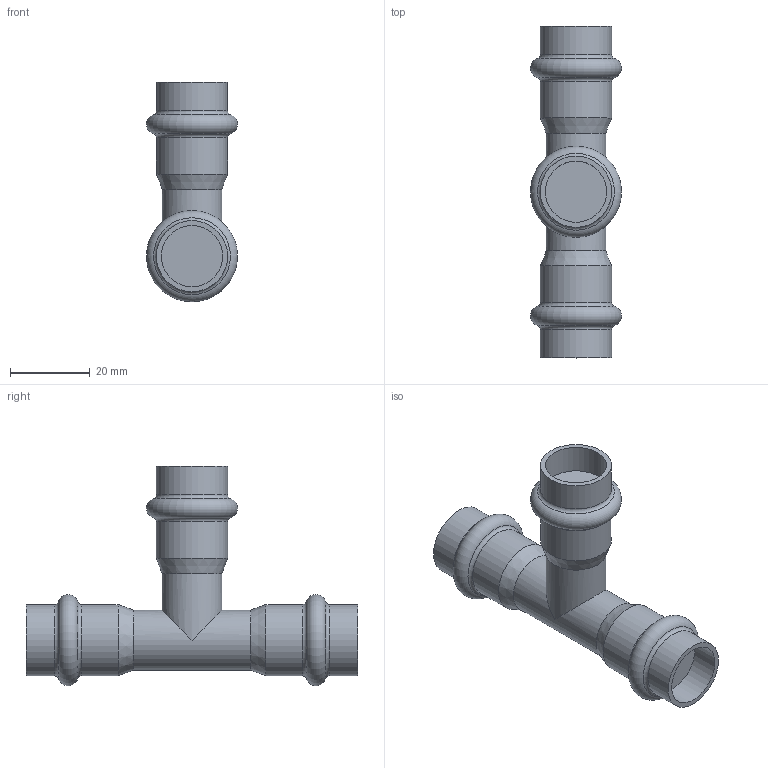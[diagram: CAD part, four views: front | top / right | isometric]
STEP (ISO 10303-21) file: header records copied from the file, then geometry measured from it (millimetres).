
FILE_DESCRIPTION(('STEP AP203'), '1');
FILE_NAME('VTi.931.I.151515', '', ('UNSPECIFIED'), ('UNSPECIFIED'), 'C3D Converter', 'C3D Toolkit', '');
FILE_SCHEMA(('CONFIG_CONTROL_DESIGN'));
Length unit declared in the file: millimetre
Bounding box: 22.8 x 83 x 54.9 mm (x, y, z)
Volume: 24557.5 mm3; surface area: 8601 mm2
Topology: 1 solids, 1 shells, 29 faces, 55 edges, 31 vertices
Faces by surface type: cylinder 11, torus 9, plane 6, cone 3
Full cylindrical faces by diameter (mm): 15 x2, 15.3 x3, 17.8 x6
Entity records: 640 total; most frequent: DIRECTION 114, CARTESIAN_POINT 104, ORIENTED_EDGE 62, AXIS2_PLACEMENT_3D 57, EDGE_LOOP 56, FACE_OUTER_BOUND 45, EDGE_CURVE 31, VERTEX_POINT 31
